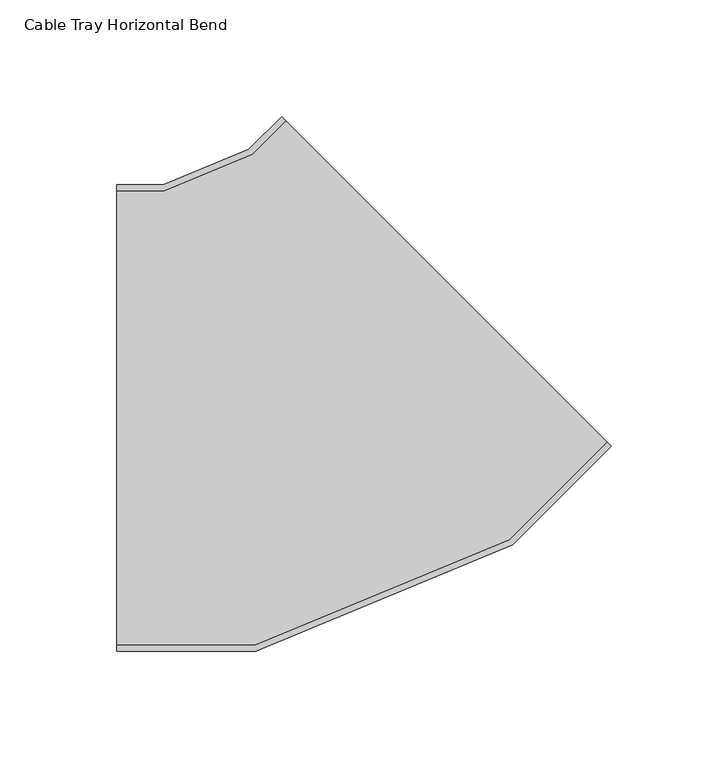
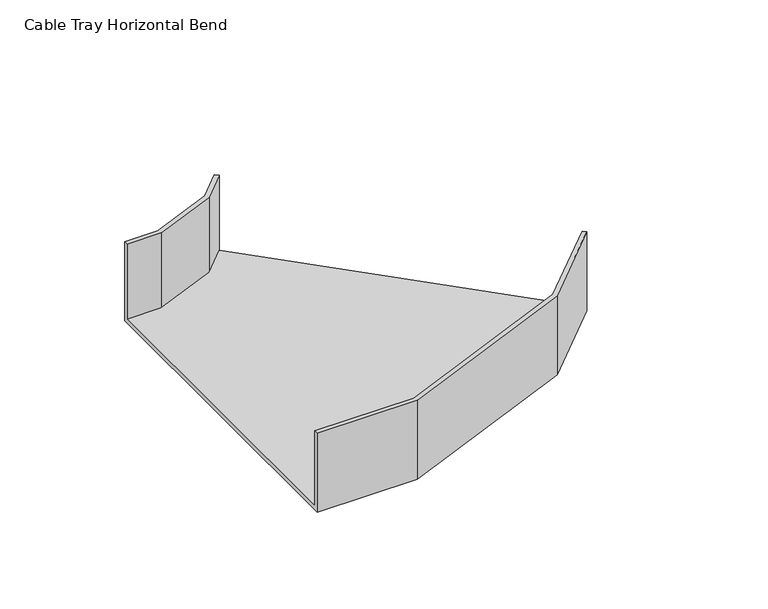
"""IFC4 building model written with IfcOpenShell, lengths in millimetres: cable carrier fitting geometry, Cable Tray Horizontal Bend : ELEC_SUB_CT_N2402."""

import ifcopenshell
import ifcopenshell.guid

model = None  # the IFC model being written
_history = None  # IfcOwnerHistory: only IFC2X3 demands one
_inside = {}  # id of a spatial element -> (the spatial element, [elements in it])
_under = {}  # id of a project, library or spatial element -> (it, [spatial elements below it])
_declared = {}  # id of a project -> (the project, [libraries it declares])
_typed = {}  # id of a type object -> (the type object, [elements of that type])
_made_of = {}  # id of a material, layer set ... -> (it, [elements and type objects made of it])


def new_model(schema):
    """Start an empty IFC model of exactly this schema.

    Asked for "IFC4X3", IfcOpenShell would pick the latest addendum, in which some entities
    have other attributes; the version numbers below select the first issue.
    IFC2X3 requires an IfcOwnerHistory on every rooted entity: one is made here for all.
    """
    global model, _history
    if schema == "IFC4X3":
        model = ifcopenshell.file(schema_version=(4, 3, 0, 0))
    else:
        model = ifcopenshell.file(schema=schema)
    _inside.clear()
    _under.clear()
    _declared.clear()
    _typed.clear()
    _made_of.clear()
    _history = None
    if model.schema == "IFC2X3":
        org = make("IfcOrganization", Name="unknown")
        user = make(
            "IfcPersonAndOrganization",
            ThePerson=make("IfcPerson", FamilyName="unknown"),
            TheOrganization=org,
        )
        app = make(
            "IfcApplication",
            ApplicationDeveloper=org,
            Version="unknown",
            ApplicationFullName="unknown",
            ApplicationIdentifier="unknown",
        )
        _history = make(
            "IfcOwnerHistory",
            OwningUser=user,
            OwningApplication=app,
            ChangeAction="ADDED",
            CreationDate=0,
        )
    return model


def make(cls, **values):
    """One entity of the class cls with the attributes given. An attribute that is None is left unset."""
    return model.create_entity(
        cls, **{name: value for name, value in values.items() if value is not None}
    )


def rooted(cls, **values):
    """An entity with a GlobalId (a new one), such as an element, a storey or a relation."""
    return make(cls, GlobalId=ifcopenshell.guid.new(), OwnerHistory=_history, **values)


def si_unit(unit_type, name, prefix=None):
    """IfcSIUnit, for example si_unit("LENGTHUNIT", "METRE", prefix="MILLI")."""
    return make("IfcSIUnit", UnitType=unit_type, Prefix=prefix, Name=name)


def assignment(units):
    """IfcUnitAssignment: the units of a project."""
    return None if units is None else make("IfcUnitAssignment", Units=units)


def point(xyz):
    """IfcCartesianPoint."""
    return None if xyz is None else make("IfcCartesianPoint", Coordinates=xyz)


def direction(xyz):
    """IfcDirection."""
    return None if xyz is None else make("IfcDirection", DirectionRatios=xyz)


def frame(location, z_axis=None, x_axis=None):
    """IfcAxis2Placement3D, a coordinate frame: its origin and axes. An axis left out is left unset."""
    return make(
        "IfcAxis2Placement3D",
        Location=point(location),
        Axis=direction(z_axis),
        RefDirection=direction(x_axis),
    )


def origin():
    """The frame at (0, 0, 0) with its axes left unset."""
    return frame((0.0, 0.0, 0.0))


def place(relative_to, where):
    """IfcLocalPlacement: puts the frame where relative to a parent placement (None: the world)."""
    return make(
        "IfcLocalPlacement", PlacementRelTo=relative_to, RelativePlacement=where
    )


def context(
    kind, dimensions, precision=None, world=None, true_north=None, identifier=None
):
    """IfcGeometricRepresentationContext, for example the 3D "Model" context."""
    return make(
        "IfcGeometricRepresentationContext",
        ContextIdentifier=identifier,
        ContextType=kind,
        CoordinateSpaceDimension=dimensions,
        Precision=precision,
        WorldCoordinateSystem=world,
        TrueNorth=true_north,
    )


def project(units=None, contexts=None):
    """IfcProject with its units and contexts."""
    return rooted(
        "IfcProject",
        Name="project",
        RepresentationContexts=contexts,
        UnitsInContext=assignment(units),
    )


def spatial(cls, under=None, at=None, **own):
    """A site, building, storey or space (cls), placed at a placement, below another one or the project."""
    s = rooted(cls, ObjectPlacement=at, **own)
    if under is not None:
        _under.setdefault(under.id(), (under, []))[1].append(s)
    return s


def faces_of(points, faces, orient=None, outer=None):
    """IfcFace entities. A face is a list of loops; a loop is a list of indices into points, from 0.

    orient and outer hold one flag for each loop. By default every Orientation is true, the
    first loop of a face is its IfcFaceOuterBound and the others are IfcFaceBound.
    """
    made = []
    for i, loops in enumerate(faces):
        bounds = []
        for j, loop in enumerate(loops):
            is_outer = j == 0 if outer is None else outer[i][j]
            bounds.append(
                make(
                    "IfcFaceOuterBound" if is_outer else "IfcFaceBound",
                    Bound=make("IfcPolyLoop", Polygon=[points[k] for k in loop]),
                    Orientation=True if orient is None else orient[i][j],
                )
            )
        made.append(make("IfcFace", Bounds=bounds))
    return made


def faceted_brep(points, faces, orient=None, outer=None, voids=None):
    """IfcFacetedBrep: a solid bounded by flat faces; with voids (closed shells), ...WithVoids."""
    shared = [point(p) for p in points]
    hull = make("IfcClosedShell", CfsFaces=faces_of(shared, faces, orient, outer))
    if voids is None:
        return make("IfcFacetedBrep", Outer=hull)
    return make(
        "IfcFacetedBrepWithVoids",
        Outer=hull,
        Voids=[
            make(cls, CfsFaces=faces_of(shared, fs, o, b)) for cls, fs, o, b in voids
        ],
    )


def shape(context_of_items, identifier, shape_type, items):
    """IfcShapeRepresentation: the items that make up one representation, for example the "Body"."""
    return make(
        "IfcShapeRepresentation",
        ContextOfItems=context_of_items,
        RepresentationIdentifier=identifier,
        RepresentationType=shape_type,
        Items=items,
    )


def source(mapping_origin, context_of_items, identifier, shape_type, items):
    """IfcRepresentationMap: a shape defined once, which mapped items show again and again."""
    return make(
        "IfcRepresentationMap",
        MappingOrigin=mapping_origin,
        MappedRepresentation=shape(context_of_items, identifier, shape_type, items),
    )


def transform(
    local_origin,
    x_axis=None,
    y_axis=None,
    z_axis=None,
    scale=None,
    scale2=None,
    scale3=None,
    uniform=True,
):
    """IfcCartesianTransformationOperator3D, or its non-uniform kind. x_axis, y_axis, z_axis: its Axis1, 2, 3."""
    if uniform:
        return make(
            "IfcCartesianTransformationOperator3D",
            Axis1=direction(x_axis),
            Axis2=direction(y_axis),
            LocalOrigin=point(local_origin),
            Scale=scale,
            Axis3=direction(z_axis),
        )
    return make(
        "IfcCartesianTransformationOperator3DnonUniform",
        Axis1=direction(x_axis),
        Axis2=direction(y_axis),
        LocalOrigin=point(local_origin),
        Scale=scale,
        Axis3=direction(z_axis),
        Scale2=scale2,
        Scale3=scale3,
    )


def mapped(mapping_source, mapping_target):
    """IfcMappedItem: shows the shape of a source again, moved by a transform."""
    return make(
        "IfcMappedItem", MappingSource=mapping_source, MappingTarget=mapping_target
    )


def made_of(thing, what):
    """Note that an element or type object is made of a material, layer set ...; save() writes the relation."""
    if what is not None:
        _made_of.setdefault(what.id(), (what, []))[1].append(thing)
    return thing


def element(
    cls,
    number,
    at=None,
    inside=None,
    cuts=None,
    type_object=None,
    material=None,
    context=None,
    identifier="Body",
    shape_type=None,
    held_by="IfcProductDefinitionShape",
    body=None,
    shapes=None,
    **own,
):
    """One element of the class cls, such as IfcWall. Its Tag is "e" and its number.

    at: its placement. inside: the storey or other place that contains it. cuts: it is an
    opening in that element (IfcRelVoidsElement). A single representation is given by context,
    identifier, shape_type and body (its items); several are given by shapes. held_by: the class
    of the entity that holds the representations. save() writes the other relations.
    """
    e = rooted(cls, Tag="e%d" % number, ObjectPlacement=at, **own)
    if body is not None:
        shapes = [shape(context, identifier, shape_type, body)]
    if shapes is not None:
        e.Representation = make(held_by, Representations=shapes)
    if inside is not None:
        _inside.setdefault(inside.id(), (inside, []))[1].append(e)
    if cuts is not None:
        rooted(
            "IfcRelVoidsElement", RelatingBuildingElement=cuts, RelatedOpeningElement=e
        )
    if type_object is not None:
        _typed.setdefault(type_object.id(), (type_object, []))[1].append(e)
    return made_of(e, material)


def aggregate(whole, parts):
    """IfcRelAggregates: a whole, such as a stair, and the parts it consists of."""
    return rooted("IfcRelAggregates", RelatingObject=whole, RelatedObjects=parts)


def save(model, path):
    """Write the relations noted so far, then the file.

    IfcRelAggregates (storeys below a building ...), IfcRelContainedInSpatialStructure (elements
    in a storey), IfcRelDefinesByType, IfcRelAssociatesMaterial and IfcRelDeclares: one each for
    every whole, place, type object, material and project.
    """
    for whole, parts in _under.values():
        aggregate(whole, parts)
    for where, things in _inside.values():
        rooted(
            "IfcRelContainedInSpatialStructure",
            RelatedElements=things,
            RelatingStructure=where,
        )
    for kind, things in _typed.values():
        rooted("IfcRelDefinesByType", RelatedObjects=things, RelatingType=kind)
    for what, things in _made_of.values():
        rooted("IfcRelAssociatesMaterial", RelatedObjects=things, RelatingMaterial=what)
    for by, libraries in _declared.values():
        rooted("IfcRelDeclares", RelatingContext=by, RelatedDefinitions=libraries)
    model.write(path)


def cable_tray_horizontal_bend_607c76ad(model_context):
    return source(origin(), model_context, "Body", "Brep", [
        faceted_brep([(-82.8427125, -100.0, -25.0), (-82.8427125, -100.0, 25.0), (-82.8427125, -97.46, 25.0), (-82.8427125, -97.46, -22.46), (-82.8427125, 97.46, -22.46), (-82.8427125, 97.46, 25.0), (-82.8427125, 100.0, 25.0), (-82.8427125, 100.0, -25.0), (129.2893219, -12.1320344, -25.0), (-12.1320344, 129.2893219, -25.0), (-12.1320344, 129.2893219, 25.0), (-10.3359831, 127.4932707, 25.0), (-10.3359831, 127.4932707, -22.46), (127.4932707, -10.3359831, -22.46), (127.4932707, -10.3359831, 25.0), (129.2893219, -12.1320344, 25.0), (-23.1690023, -100.0, -25.0), (-23.1690023, -100.0, 25.0), (87.0936367, -54.3277195, 25.0), (85.6548423, -52.1744115, 25.0), (-23.6742397, -97.46, 25.0), (-23.6742397, -97.46, -22.46), (85.6548423, -52.1744115, -22.46), (-24.7584683, 113.0707855, -22.46), (-62.4462383, 97.46, -22.46), (-62.4462383, 97.46, 25.0), (-24.7584683, 113.0707855, 25.0), (-26.1972627, 115.2240935, 25.0), (-62.9514757, 100.0, 25.0), (-62.9514757, 100.0, -25.0), (-26.1972627, 115.2240935, -25.0), (87.0936367, -54.3277195, -25.0)], [[[0, 1, 2, 3, 4, 5, 6, 7]], [[8, 9, 10, 11, 12, 13, 14, 15]], [[1, 0, 16, 17]], [[2, 1, 17, 18, 15, 14, 19, 20]], [[3, 2, 20, 21]], [[4, 3, 21, 22, 13, 12, 23, 24]], [[5, 4, 24, 25]], [[6, 5, 25, 26, 11, 10, 27, 28]], [[7, 6, 28, 29]], [[0, 7, 29, 30, 9, 8, 31, 16]], [[17, 16, 31, 18]], [[21, 20, 19, 22]], [[25, 24, 23, 26]], [[29, 28, 27, 30]], [[18, 31, 8, 15]], [[22, 19, 14, 13]], [[26, 23, 12, 11]], [[30, 27, 10, 9]]]),
    ])


if __name__ == "__main__":
    model = new_model("IFC4")
    model_context = context("Model", 3, world=origin())
    ifc_project = project(units=[si_unit("LENGTHUNIT", "METRE", prefix="MILLI")], contexts=[model_context])
    site = spatial("IfcSite", under=ifc_project)
    building = spatial("IfcBuilding", under=site)
    placement = place(None, origin())
    cable_tray_horizontal_bend_shape = cable_tray_horizontal_bend_607c76ad(model_context)
    element("IfcCableCarrierFitting", 1, ObjectType="Cable Tray Horizontal Bend : ELEC_SUB_CT_N2402", at=placement, inside=building, context=model_context, shape_type="MappedRepresentation", body=[
        mapped(cable_tray_horizontal_bend_shape, transform((0.0, 0.0, 0.0), x_axis=(1.0, 0.0, 0.0), y_axis=(0.0, 1.0, 0.0), z_axis=(0.0, 0.0, 1.0))),
    ])
    save(model, "model.ifc")
